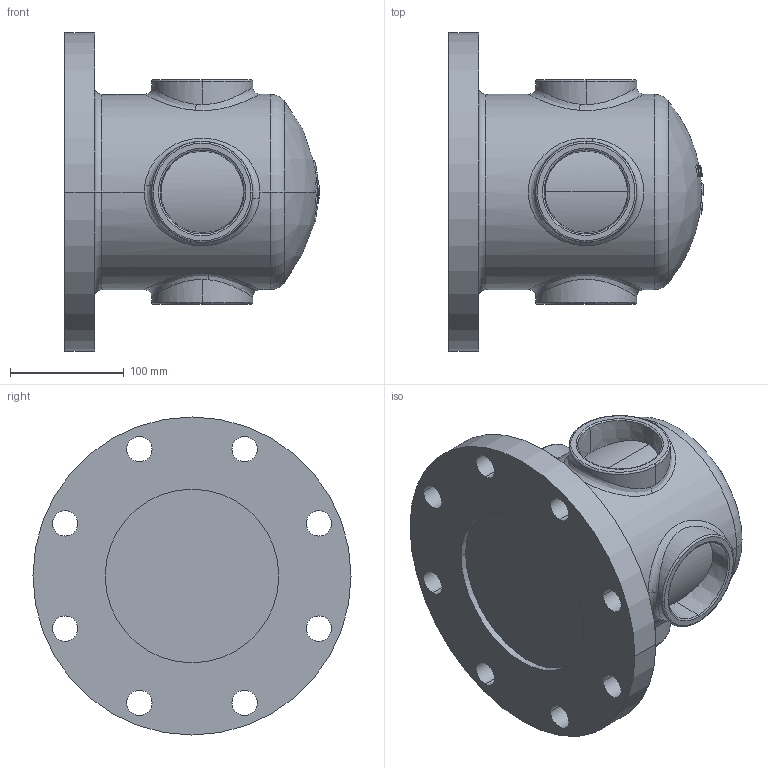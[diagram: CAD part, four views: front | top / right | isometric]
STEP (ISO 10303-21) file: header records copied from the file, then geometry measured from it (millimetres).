
FILE_DESCRIPTION (( 'STEP AP203' ), '1' );
FILE_NAME ('6in Test Header, 150A.STEP', '2019-06-06T19:59:02', ( '' ), ( '' ), 'SwSTEP 2.0', 'SolidWorks 2018', '' );
FILE_SCHEMA (( 'CONFIG_CONTROL_DESIGN' ));
Length unit declared in the file: inch
Products named in the file (1): 6in Test Header, 150A
Bounding box: 223.54 x 279.4 x 279.4 mm (x, y, z)
Volume: 5609424.3 mm3; surface area: 284133.9 mm2
Topology: 1 solids, 1 shells, 209 faces, 534 edges, 349 vertices
Faces by surface type: plane 78, bspline 42, cylinder 35, sphere 26, cone 16, torus 12
Entity records: 11705 total; most frequent: CARTESIAN_POINT 6635, ORIENTED_EDGE 1068, DIRECTION 1014, EDGE_CURVE 534, AXIS2_PLACEMENT_3D 430, VERTEX_POINT 349, CIRCLE 262, EDGE_LOOP 247
